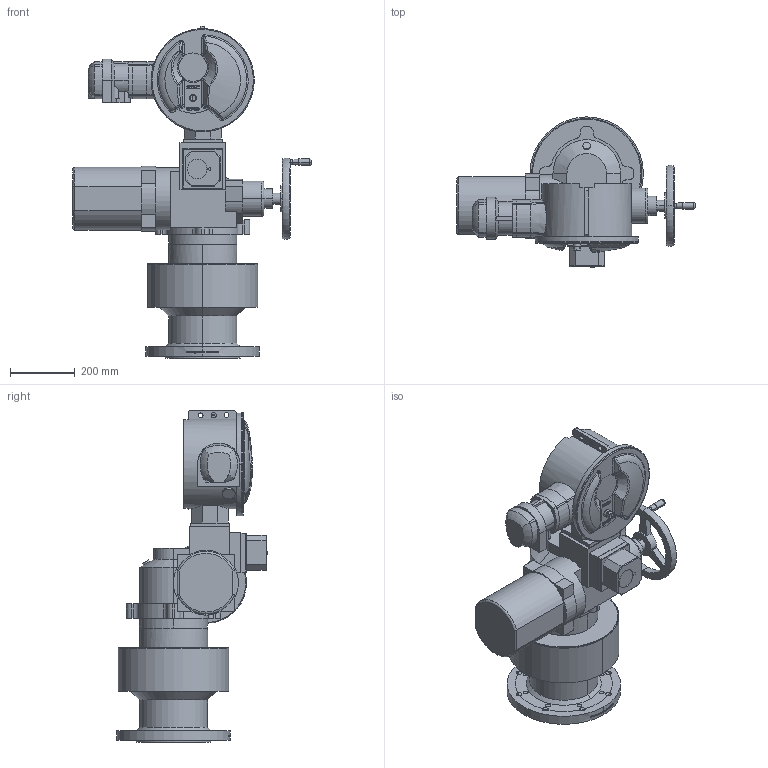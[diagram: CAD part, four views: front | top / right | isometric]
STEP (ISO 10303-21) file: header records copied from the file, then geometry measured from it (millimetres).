
FILE_DESCRIPTION(('Creo Elements/Direct Modeling STEP Export'),'2;1');
FILE_NAME('2SA7.7_2SA7.8.stp','2017-09-22T12:57:09',(''),(''),'Creo Elements/Direct Modeling STEP processor for AP214 (Solid Model)','Creo Elements/Direct Modeling 18.1B 29-Sep-2012 (C) Parametric Technology GmbH','');
FILE_SCHEMA(('AUTOMOTIVE_DESIGN { 1 0 10303 214 1 1 1 1 }'));
Length unit declared in the file: millimetre
Products named in the file (16): Cover_Signaling_Device; Cover_niP; Select_Cover_Pos_Recording; Actuator_Size_4; Plug_Connection; Field_Bus; Select_E_Connection; E_Housing_Big; 2SA7.7_1; Ring_G4_F25; 2SA7.7; 2SA7.8_1; Ring_G5_F30; 2SA7.8; Select_Intermediate_Gear; 2SA7.7_2SA7.8
Assembly tree (15 placements, depth 4):
  2SA7.7_2SA7.8
    Select_Intermediate_Gear
      2SA7.8
        Ring_G5_F30
        2SA7.8_1
      2SA7.7
        Ring_G4_F25
        2SA7.7_1
    E_Housing_Big
    Select_E_Connection
      Field_Bus
      Plug_Connection
    Actuator_Size_4
    Select_Cover_Pos_Recording
      Cover_niP
      Cover_Signaling_Device
Bounding box: 734 x 464 x 1023.5 mm (x, y, z)
Volume: 82547353.5 mm3; surface area: 2596138 mm2
Topology: 10 solids, 10 shells, 3176 faces, 8860 edges, 5881 vertices
Faces by surface type: plane 2742, cylinder 300, bspline 58, cone 40, torus 32, sphere 4
Entity records: 139083 total; most frequent: CARTESIAN_POINT 34724, ORIENTED_EDGE 17684, DIRECTION 17118, EDGE_CURVE 8842, VERTEX_POINT 5881, VECTOR 5718, LINE 5718, AXIS2_PLACEMENT_3D 5700
